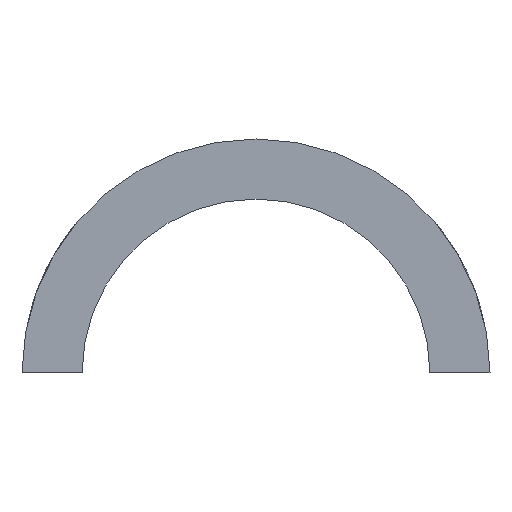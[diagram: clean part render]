
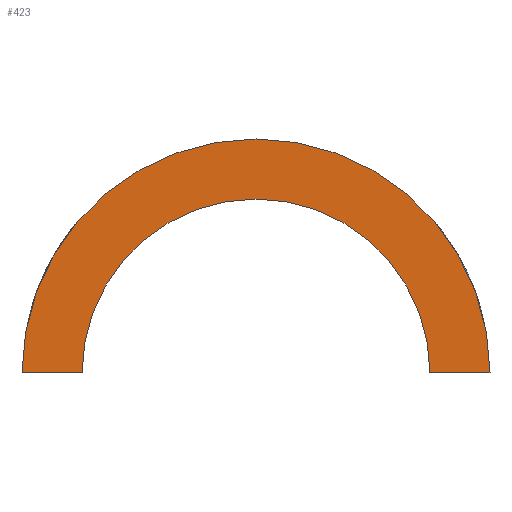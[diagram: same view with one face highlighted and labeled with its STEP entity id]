
A CAD part, front view. The second image highlights one B-rep face of the part: STEP entity #423.
In plain terms, the highlighted planar face has unit normal (0, -1, 0).
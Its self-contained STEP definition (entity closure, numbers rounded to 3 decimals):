
#18 = CARTESIAN_POINT ( 'NONE',  ( -44., 0., 68.7 ) ) ;
#52 = CIRCLE ( 'NONE', #563, 32.7 ) ;
#78 = CARTESIAN_POINT ( 'NONE',  ( 0., 0., 68.7 ) ) ;
#137 = DIRECTION ( 'NONE',  ( 1., 0., 0. ) ) ;
#142 = CIRCLE ( 'NONE', #829, 44. ) ;
#171 = VERTEX_POINT ( 'NONE', #18 ) ;
#201 = DIRECTION ( 'NONE',  ( 0., 0., -1. ) ) ;
#230 = EDGE_LOOP ( 'NONE', ( #533, #342, #634, #352 ) ) ;
#256 = AXIS2_PLACEMENT_3D ( 'NONE', #744, #359, #1240 ) ;
#299 = VERTEX_POINT ( 'NONE', #1301 ) ;
#319 = LINE ( 'NONE', #1114, #1605 ) ;
#320 = CARTESIAN_POINT ( 'NONE',  ( 0., 0., 68.7 ) ) ;
#342 = ORIENTED_EDGE ( 'NONE', *, *, #1463, .T. ) ;
#352 = ORIENTED_EDGE ( 'NONE', *, *, #1229, .T. ) ;
#359 = DIRECTION ( 'NONE',  ( 0., 1., 0. ) ) ;
#405 = DIRECTION ( 'NONE',  ( 0., -1., 0. ) ) ;
#423 = ADVANCED_FACE ( 'NONE', ( #1121 ), #611, .F. ) ;
#454 = LINE ( 'NONE', #320, #1452 ) ;
#494 = VERTEX_POINT ( 'NONE', #534 ) ;
#533 = ORIENTED_EDGE ( 'NONE', *, *, #1131, .T. ) ;
#534 = CARTESIAN_POINT ( 'NONE',  ( 44., 0., 68.7 ) ) ;
#563 = AXIS2_PLACEMENT_3D ( 'NONE', #1166, #405, #1282 ) ;
#611 = PLANE ( 'NONE',  #256 ) ;
#634 = ORIENTED_EDGE ( 'NONE', *, *, #840, .F. ) ;
#744 = CARTESIAN_POINT ( 'NONE',  ( 0., 0., 0. ) ) ;
#761 = VERTEX_POINT ( 'NONE', #1133 ) ;
#829 = AXIS2_PLACEMENT_3D ( 'NONE', #78, #958, #201 ) ;
#840 = EDGE_CURVE ( 'NONE', #761, #299, #52, .T. ) ;
#958 = DIRECTION ( 'NONE',  ( 0., -1., 0. ) ) ;
#1073 = DIRECTION ( 'NONE',  ( 1., 0., 0. ) ) ;
#1114 = CARTESIAN_POINT ( 'NONE',  ( 0., 0., 68.7 ) ) ;
#1121 = FACE_OUTER_BOUND ( 'NONE', #230, .T. ) ;
#1131 = EDGE_CURVE ( 'NONE', #494, #171, #142, .T. ) ;
#1133 = CARTESIAN_POINT ( 'NONE',  ( 32.7, 0., 68.7 ) ) ;
#1166 = CARTESIAN_POINT ( 'NONE',  ( 0., 0., 68.7 ) ) ;
#1229 = EDGE_CURVE ( 'NONE', #761, #494, #319, .T. ) ;
#1240 = DIRECTION ( 'NONE',  ( 0., 0., 1. ) ) ;
#1282 = DIRECTION ( 'NONE',  ( 0., 0., -1. ) ) ;
#1301 = CARTESIAN_POINT ( 'NONE',  ( -32.7, 0., 68.7 ) ) ;
#1452 = VECTOR ( 'NONE', #1073, 1000. ) ;
#1463 = EDGE_CURVE ( 'NONE', #171, #299, #454, .T. ) ;
#1605 = VECTOR ( 'NONE', #137, 1000. ) ;
